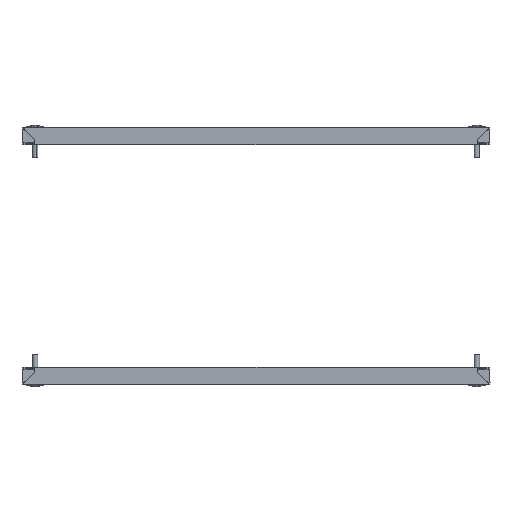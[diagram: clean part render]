
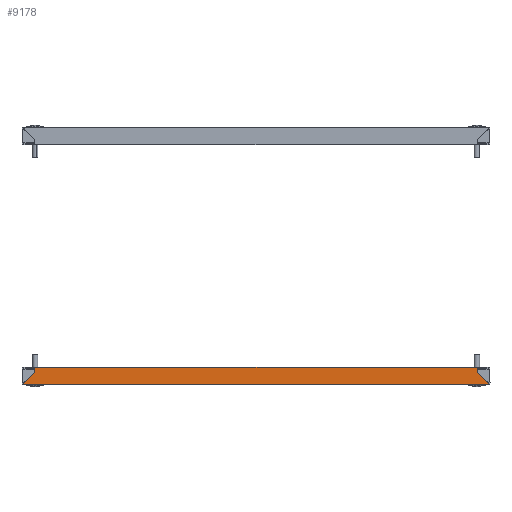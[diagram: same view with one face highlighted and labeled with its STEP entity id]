
A CAD part, front view. The second image highlights one B-rep face of the part: STEP entity #9178.
In plain terms, the highlighted planar face has unit normal (0, -1, 0).
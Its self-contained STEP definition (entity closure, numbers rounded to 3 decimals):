
#404 = CARTESIAN_POINT ( 'NONE',  ( 247.121, -50., -0.099 ) ) ;
#563 = EDGE_CURVE ( 'NONE', #2153, #4872, #4296, .T. ) ;
#700 = CARTESIAN_POINT ( 'NONE',  ( -236., -50., 11.646 ) ) ;
#722 = VECTOR ( 'NONE', #7270, 1000. ) ;
#1055 = PLANE ( 'NONE',  #1099 ) ;
#1099 = AXIS2_PLACEMENT_3D ( 'NONE', #4143, #1869, #8612 ) ;
#1173 = CARTESIAN_POINT ( 'NONE',  ( 247.084, -50., 0.251 ) ) ;
#1637 = EDGE_CURVE ( 'NONE', #8847, #9081, #5795, .T. ) ;
#1755 = VERTEX_POINT ( 'NONE', #700 ) ;
#1869 = DIRECTION ( 'NONE',  ( 0., 1., 0. ) ) ;
#2034 = DIRECTION ( 'NONE',  ( 0., 0., 1. ) ) ;
#2153 = VERTEX_POINT ( 'NONE', #6442 ) ;
#2175 = VECTOR ( 'NONE', #2034, 1000. ) ;
#2349 = CARTESIAN_POINT ( 'NONE',  ( -247.121, -50., -0.099 ) ) ;
#2455 = CARTESIAN_POINT ( 'NONE',  ( -247.204, -50., -1.149 ) ) ;
#2649 = CARTESIAN_POINT ( 'NONE',  ( 0., -50., -1.5 ) ) ;
#2685 = B_SPLINE_CURVE_WITH_KNOTS ( 'NONE', 3,
 ( #8069, #1173, #404, #9624, #4353, #8726 ),
 .UNSPECIFIED., .F., .F.,
 ( 4, 2, 4 ),
 ( 0.005, 0.006, 0.008 ),
 .UNSPECIFIED. ) ;
#2954 = VECTOR ( 'NONE', #8862, 1000. ) ;
#3018 = VECTOR ( 'NONE', #6239, 1000. ) ;
#3039 = EDGE_CURVE ( 'NONE', #9081, #5269, #2685, .T. ) ;
#3070 = CARTESIAN_POINT ( 'NONE',  ( -236., -50., 11.646 ) ) ;
#3176 = LINE ( 'NONE', #3070, #3018 ) ;
#3393 = EDGE_LOOP ( 'NONE', ( #6388, #5012, #6941, #4075, #9596, #9257, #9804, #4426 ) ) ;
#3534 = CARTESIAN_POINT ( 'NONE',  ( 0., -50., 17.5 ) ) ;
#3657 = EDGE_CURVE ( 'NONE', #8566, #1755, #9300, .T. ) ;
#4075 = ORIENTED_EDGE ( 'NONE', *, *, #9047, .T. ) ;
#4090 = FACE_OUTER_BOUND ( 'NONE', #3393, .T. ) ;
#4143 = CARTESIAN_POINT ( 'NONE',  ( 0., -50., 0. ) ) ;
#4192 = VECTOR ( 'NONE', #5832, 1000. ) ;
#4296 = LINE ( 'NONE', #3534, #4192 ) ;
#4353 = CARTESIAN_POINT ( 'NONE',  ( 247.204, -50., -1.149 ) ) ;
#4426 = ORIENTED_EDGE ( 'NONE', *, *, #3039, .F. ) ;
#4779 = CARTESIAN_POINT ( 'NONE',  ( -247.046, -50., 0.6 ) ) ;
#4872 = VERTEX_POINT ( 'NONE', #9731 ) ;
#5012 = ORIENTED_EDGE ( 'NONE', *, *, #5386, .T. ) ;
#5075 = VECTOR ( 'NONE', #9197, 1000. ) ;
#5188 = CARTESIAN_POINT ( 'NONE',  ( 236., -50., 11.646 ) ) ;
#5269 = VERTEX_POINT ( 'NONE', #6450 ) ;
#5345 = CARTESIAN_POINT ( 'NONE',  ( 236., -50., 11.646 ) ) ;
#5386 = EDGE_CURVE ( 'NONE', #8847, #2153, #9003, .T. ) ;
#5490 = CARTESIAN_POINT ( 'NONE',  ( -247.046, -50., 0.6 ) ) ;
#5703 = CARTESIAN_POINT ( 'NONE',  ( -102.536, -50., 350.182 ) ) ;
#5795 = LINE ( 'NONE', #5703, #2954 ) ;
#5832 = DIRECTION ( 'NONE',  ( -1., 0., 0. ) ) ;
#5969 = EDGE_CURVE ( 'NONE', #8566, #8610, #6333, .T. ) ;
#6041 = EDGE_CURVE ( 'NONE', #8610, #5269, #7368, .T. ) ;
#6220 = CARTESIAN_POINT ( 'NONE',  ( -247.084, -50., 0.251 ) ) ;
#6239 = DIRECTION ( 'NONE',  ( 0., 0., -1. ) ) ;
#6333 = B_SPLINE_CURVE_WITH_KNOTS ( 'NONE', 3,
 ( #4779, #6220, #2349, #7938, #2455, #8495 ),
 .UNSPECIFIED., .F., .F.,
 ( 4, 2, 4 ),
 ( 0.005, 0.006, 0.008 ),
 .UNSPECIFIED. ) ;
#6388 = ORIENTED_EDGE ( 'NONE', *, *, #1637, .F. ) ;
#6442 = CARTESIAN_POINT ( 'NONE',  ( 236., -50., 17.5 ) ) ;
#6450 = CARTESIAN_POINT ( 'NONE',  ( 247.223, -50., -1.5 ) ) ;
#6602 = CARTESIAN_POINT ( 'NONE',  ( -247.046, -50., 0.6 ) ) ;
#6941 = ORIENTED_EDGE ( 'NONE', *, *, #563, .T. ) ;
#7270 = DIRECTION ( 'NONE',  ( 1., 0., 0. ) ) ;
#7368 = LINE ( 'NONE', #2649, #722 ) ;
#7938 = CARTESIAN_POINT ( 'NONE',  ( -247.181, -50., -0.799 ) ) ;
#8069 = CARTESIAN_POINT ( 'NONE',  ( 247.046, -50., 0.6 ) ) ;
#8495 = CARTESIAN_POINT ( 'NONE',  ( -247.223, -50., -1.5 ) ) ;
#8560 = CARTESIAN_POINT ( 'NONE',  ( 247.046, -50., 0.6 ) ) ;
#8566 = VERTEX_POINT ( 'NONE', #6602 ) ;
#8610 = VERTEX_POINT ( 'NONE', #9525 ) ;
#8612 = DIRECTION ( 'NONE',  ( 0., 0., 1. ) ) ;
#8726 = CARTESIAN_POINT ( 'NONE',  ( 247.223, -50., -1.5 ) ) ;
#8847 = VERTEX_POINT ( 'NONE', #5345 ) ;
#8862 = DIRECTION ( 'NONE',  ( 0.707, 0., -0.707 ) ) ;
#9003 = LINE ( 'NONE', #5188, #2175 ) ;
#9047 = EDGE_CURVE ( 'NONE', #4872, #1755, #3176, .T. ) ;
#9081 = VERTEX_POINT ( 'NONE', #8560 ) ;
#9178 = ADVANCED_FACE ( 'NONE', ( #4090 ), #1055, .F. ) ;
#9197 = DIRECTION ( 'NONE',  ( 0.707, 0., 0.707 ) ) ;
#9257 = ORIENTED_EDGE ( 'NONE', *, *, #5969, .T. ) ;
#9300 = LINE ( 'NONE', #5490, #5075 ) ;
#9525 = CARTESIAN_POINT ( 'NONE',  ( -247.223, -50., -1.5 ) ) ;
#9596 = ORIENTED_EDGE ( 'NONE', *, *, #3657, .F. ) ;
#9624 = CARTESIAN_POINT ( 'NONE',  ( 247.181, -50., -0.799 ) ) ;
#9731 = CARTESIAN_POINT ( 'NONE',  ( -236., -50., 17.5 ) ) ;
#9804 = ORIENTED_EDGE ( 'NONE', *, *, #6041, .T. ) ;
